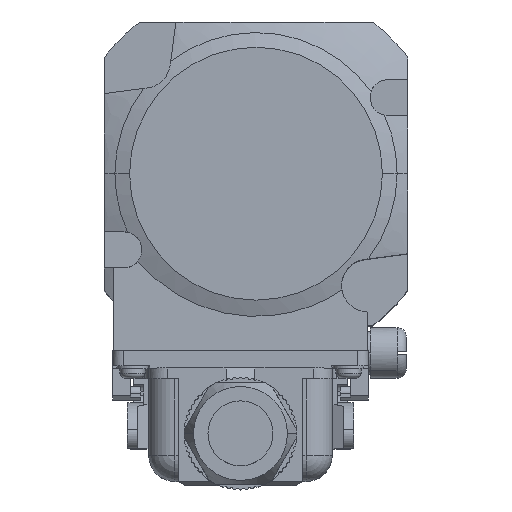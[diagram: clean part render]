
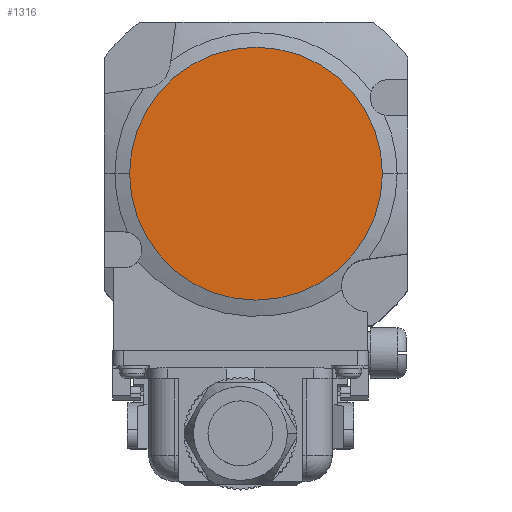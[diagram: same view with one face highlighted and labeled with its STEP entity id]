
A CAD part, top view. The second image highlights one B-rep face of the part: STEP entity #1316.
In plain terms, the highlighted planar face has unit normal (0, 0, 1).
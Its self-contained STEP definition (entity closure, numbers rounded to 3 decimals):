
#782 = CIRCLE ( 'NONE', #15927, 17.5 ) ;
#1235 = PLANE ( 'NONE',  #16225 ) ;
#1316 = ADVANCED_FACE ( 'NONE', ( #9695 ), #1235, .T. ) ;
#2263 = CIRCLE ( 'NONE', #10484, 17.5 ) ;
#2525 = DIRECTION ( 'NONE',  ( 1., 0., 0. ) ) ;
#3306 = CARTESIAN_POINT ( 'NONE',  ( 0., 0., 75. ) ) ;
#3888 = DIRECTION ( 'NONE',  ( 1., 0., 0. ) ) ;
#6146 = DIRECTION ( 'NONE',  ( 1., 0., 0. ) ) ;
#6191 = CARTESIAN_POINT ( 'NONE',  ( -17.5, 0., 75. ) ) ;
#6807 = CARTESIAN_POINT ( 'NONE',  ( 17.5, 0., 75. ) ) ;
#7973 = EDGE_LOOP ( 'NONE', ( #15302, #8879 ) ) ;
#8879 = ORIENTED_EDGE ( 'NONE', *, *, #9661, .T. ) ;
#9550 = EDGE_CURVE ( 'NONE', #13022, #9698, #2263, .T. ) ;
#9661 = EDGE_CURVE ( 'NONE', #9698, #13022, #782, .T. ) ;
#9695 = FACE_OUTER_BOUND ( 'NONE', #7973, .T. ) ;
#9698 = VERTEX_POINT ( 'NONE', #6807 ) ;
#10484 = AXIS2_PLACEMENT_3D ( 'NONE', #3306, #12154, #6146 ) ;
#10917 = DIRECTION ( 'NONE',  ( 0., 0., 1. ) ) ;
#12154 = DIRECTION ( 'NONE',  ( 0., 0., 1. ) ) ;
#12735 = CARTESIAN_POINT ( 'NONE',  ( 0., 0., 75. ) ) ;
#13022 = VERTEX_POINT ( 'NONE', #6191 ) ;
#15302 = ORIENTED_EDGE ( 'NONE', *, *, #9550, .T. ) ;
#15559 = CARTESIAN_POINT ( 'NONE',  ( 0., 0., 75. ) ) ;
#15927 = AXIS2_PLACEMENT_3D ( 'NONE', #15559, #10917, #2525 ) ;
#16225 = AXIS2_PLACEMENT_3D ( 'NONE', #12735, #18501, #3888 ) ;
#18501 = DIRECTION ( 'NONE',  ( 0., 0., 1. ) ) ;
